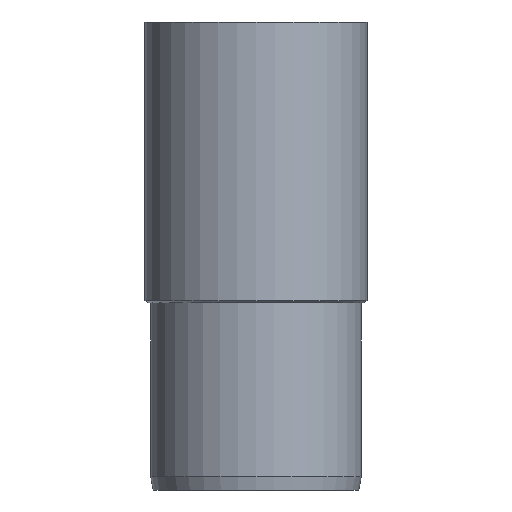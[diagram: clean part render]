
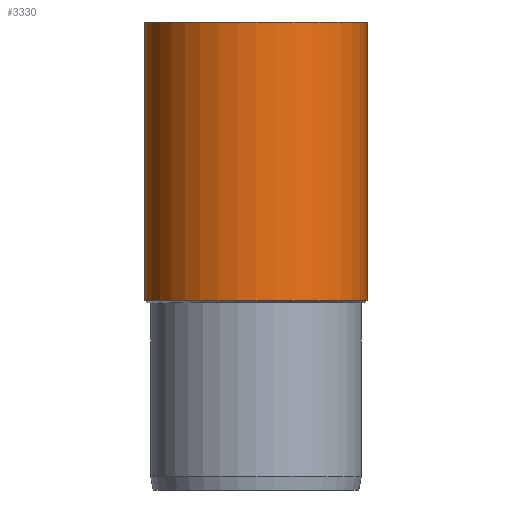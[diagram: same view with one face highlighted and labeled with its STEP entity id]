
A CAD part, front view. The second image highlights one B-rep face of the part: STEP entity #3330.
In plain terms, the highlighted cylindrical face has radius 28.5 mm (diameter 57 mm), a partial arc.
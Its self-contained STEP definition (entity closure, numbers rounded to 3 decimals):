
#1140=CARTESIAN_POINT('',(18.263,47.281,48.577));
#1150=VERTEX_POINT('',#1140);
#1180=CARTESIAN_POINT('',(46.763,47.281,48.577));
#1190=DIRECTION('',(0.,0.,1.));
#1200=DIRECTION('',(1.,0.,0.));
#1210=AXIS2_PLACEMENT_3D('',#1180,#1190,#1200);
#1220=CIRCLE('',#1210,28.5);
#1230=CARTESIAN_POINT('',(75.263,47.281,48.577));
#1240=VERTEX_POINT('',#1230);
#1250=EDGE_CURVE('',#1150,#1240,#1220,.T.);
#1870=CARTESIAN_POINT('',(46.763,47.281,120.));
#1880=DIRECTION('',(0.,0.,1.));
#1890=DIRECTION('',(1.,0.,0.));
#1900=AXIS2_PLACEMENT_3D('',#1870,#1880,#1890);
#1910=CIRCLE('',#1900,28.5);
#1920=CARTESIAN_POINT('',(75.263,47.281,120.));
#1930=VERTEX_POINT('',#1920);
#1940=CARTESIAN_POINT('',(18.263,47.281,120.));
#1950=VERTEX_POINT('',#1940);
#1980=EDGE_CURVE('',#1950,#1930,#1910,.T.);
#3120=CARTESIAN_POINT('',(46.763,47.281,0.));
#3130=DIRECTION('',(0.,0.,1.));
#3140=DIRECTION('',(1.,0.,0.));
#3150=AXIS2_PLACEMENT_3D('',#3120,#3130,#3140);
#3160=CYLINDRICAL_SURFACE('',#3150,28.5);
#3170=CARTESIAN_POINT('',(18.263,47.281,0.));
#3180=DIRECTION('',(0.,0.,1.));
#3190=VECTOR('',#3180,1.);
#3200=LINE('',#3170,#3190);
#3210=EDGE_CURVE('',#1150,#1950,#3200,.T.);
#3220=ORIENTED_EDGE('',*,*,#3210,.F.);
#3230=ORIENTED_EDGE('',*,*,#1980,.F.);
#3240=CARTESIAN_POINT('',(75.263,47.281,0.));
#3250=DIRECTION('',(0.,0.,1.));
#3260=VECTOR('',#3250,1.);
#3270=LINE('',#3240,#3260);
#3280=EDGE_CURVE('',#1240,#1930,#3270,.T.);
#3290=ORIENTED_EDGE('',*,*,#3280,.T.);
#3300=ORIENTED_EDGE('',*,*,#1250,.T.);
#3310=EDGE_LOOP('',(#3300,#3290,#3230,#3220));
#3320=FACE_OUTER_BOUND('',#3310,.T.);
#3330=ADVANCED_FACE('',(#3320),#3160,.T.);
